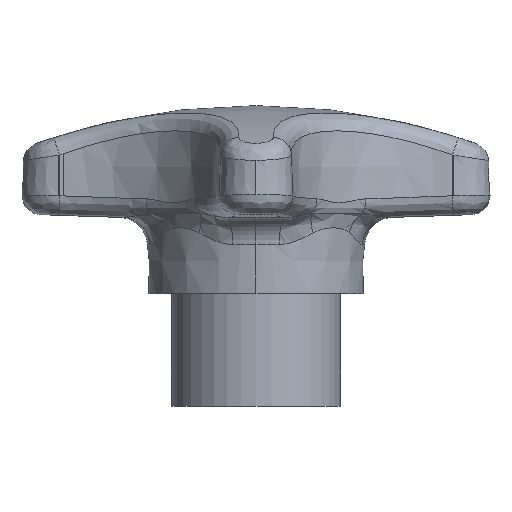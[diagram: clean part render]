
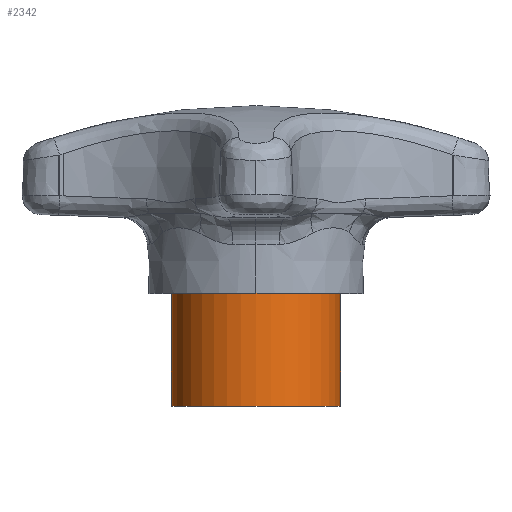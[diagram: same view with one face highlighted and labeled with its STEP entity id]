
A CAD part, top view. The second image highlights one B-rep face of the part: STEP entity #2342.
In plain terms, the highlighted cylindrical face has radius 9 mm (diameter 18 mm), a partial arc.
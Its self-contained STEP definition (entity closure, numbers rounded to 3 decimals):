
#332 = VECTOR ( 'NONE', #479, 1000. ) ;
#479 = DIRECTION ( 'NONE',  ( 0., -1., 0. ) ) ;
#555 = CARTESIAN_POINT ( 'NONE',  ( -9., 12., 0. ) ) ;
#812 = VERTEX_POINT ( 'NONE', #555 ) ;
#1025 = FACE_OUTER_BOUND ( 'NONE', #4373, .T. ) ;
#1028 = CIRCLE ( 'NONE', #3462, 9. ) ;
#1148 = VERTEX_POINT ( 'NONE', #2837 ) ;
#1255 = LINE ( 'NONE', #4468, #1955 ) ;
#1335 = ORIENTED_EDGE ( 'NONE', *, *, #4371, .F. ) ;
#1342 = EDGE_CURVE ( 'NONE', #812, #4738, #4501, .T. ) ;
#1348 = EDGE_CURVE ( 'NONE', #1148, #812, #1028, .T. ) ;
#1375 = DIRECTION ( 'NONE',  ( 1., 0., 0. ) ) ;
#1523 = DIRECTION ( 'NONE',  ( 1., 0., 0. ) ) ;
#1647 = DIRECTION ( 'NONE',  ( 1., 0., 0. ) ) ;
#1795 = DIRECTION ( 'NONE',  ( 0., -1., 0. ) ) ;
#1955 = VECTOR ( 'NONE', #4912, 1000. ) ;
#2342 = ADVANCED_FACE ( 'NONE', ( #1025 ), #3417, .T. ) ;
#2343 = VERTEX_POINT ( 'NONE', #3106 ) ;
#2751 = DIRECTION ( 'NONE',  ( 0., -1., 0. ) ) ;
#2764 = CARTESIAN_POINT ( 'NONE',  ( -9., 0., 0. ) ) ;
#2804 = CARTESIAN_POINT ( 'NONE',  ( -9., 0., 0. ) ) ;
#2837 = CARTESIAN_POINT ( 'NONE',  ( 9., 12., 0. ) ) ;
#2859 = CARTESIAN_POINT ( 'NONE',  ( 0., 12., 0. ) ) ;
#2979 = CIRCLE ( 'NONE', #5225, 9. ) ;
#3036 = CARTESIAN_POINT ( 'NONE',  ( 0., 0., 0. ) ) ;
#3106 = CARTESIAN_POINT ( 'NONE',  ( 9., 0., 0. ) ) ;
#3417 = CYLINDRICAL_SURFACE ( 'NONE', #3894, 9. ) ;
#3462 = AXIS2_PLACEMENT_3D ( 'NONE', #2859, #3694, #1647 ) ;
#3551 = ORIENTED_EDGE ( 'NONE', *, *, #3662, .F. ) ;
#3587 = CARTESIAN_POINT ( 'NONE',  ( 0., 0., 0. ) ) ;
#3662 = EDGE_CURVE ( 'NONE', #1148, #2343, #1255, .T. ) ;
#3694 = DIRECTION ( 'NONE',  ( 0., -1., 0. ) ) ;
#3894 = AXIS2_PLACEMENT_3D ( 'NONE', #3587, #2751, #1523 ) ;
#4371 = EDGE_CURVE ( 'NONE', #2343, #4738, #2979, .T. ) ;
#4373 = EDGE_LOOP ( 'NONE', ( #5092, #4882, #1335, #3551 ) ) ;
#4468 = CARTESIAN_POINT ( 'NONE',  ( 9., 0., 0. ) ) ;
#4501 = LINE ( 'NONE', #2804, #332 ) ;
#4738 = VERTEX_POINT ( 'NONE', #2764 ) ;
#4882 = ORIENTED_EDGE ( 'NONE', *, *, #1342, .T. ) ;
#4912 = DIRECTION ( 'NONE',  ( 0., -1., 0. ) ) ;
#5092 = ORIENTED_EDGE ( 'NONE', *, *, #1348, .T. ) ;
#5225 = AXIS2_PLACEMENT_3D ( 'NONE', #3036, #1795, #1375 ) ;
